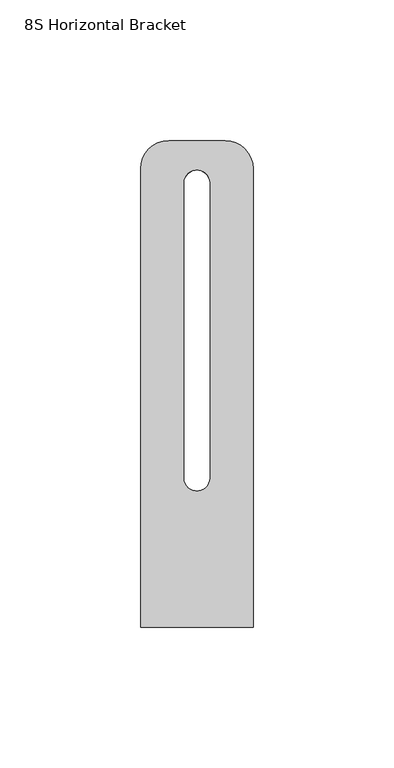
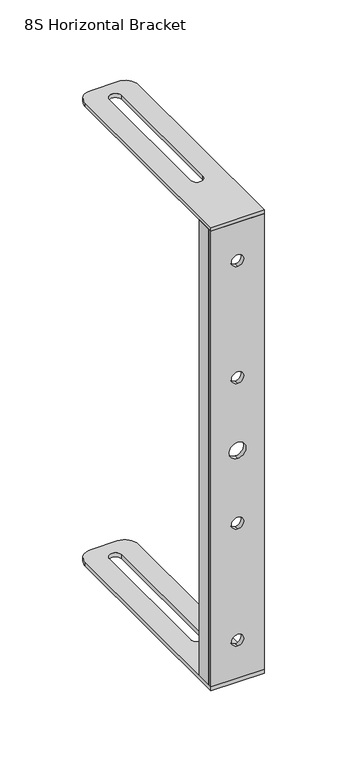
"""IFC4 building model written with IfcOpenShell, lengths in millimetres: proxy geometry, d&b xS-Series 8S Horizontal Bracket : 8S Horizontal Bracket."""

import ifcopenshell
import ifcopenshell.guid

model = None  # the IFC model being written
_history = None  # IfcOwnerHistory: only IFC2X3 demands one
_inside = {}  # id of a spatial element -> (the spatial element, [elements in it])
_under = {}  # id of a project, library or spatial element -> (it, [spatial elements below it])
_declared = {}  # id of a project -> (the project, [libraries it declares])
_typed = {}  # id of a type object -> (the type object, [elements of that type])
_made_of = {}  # id of a material, layer set ... -> (it, [elements and type objects made of it])


def new_model(schema):
    """Start an empty IFC model of exactly this schema.

    Asked for "IFC4X3", IfcOpenShell would pick the latest addendum, in which some entities
    have other attributes; the version numbers below select the first issue.
    IFC2X3 requires an IfcOwnerHistory on every rooted entity: one is made here for all.
    """
    global model, _history
    if schema == "IFC4X3":
        model = ifcopenshell.file(schema_version=(4, 3, 0, 0))
    else:
        model = ifcopenshell.file(schema=schema)
    _inside.clear()
    _under.clear()
    _declared.clear()
    _typed.clear()
    _made_of.clear()
    _history = None
    if model.schema == "IFC2X3":
        org = make("IfcOrganization", Name="unknown")
        user = make(
            "IfcPersonAndOrganization",
            ThePerson=make("IfcPerson", FamilyName="unknown"),
            TheOrganization=org,
        )
        app = make(
            "IfcApplication",
            ApplicationDeveloper=org,
            Version="unknown",
            ApplicationFullName="unknown",
            ApplicationIdentifier="unknown",
        )
        _history = make(
            "IfcOwnerHistory",
            OwningUser=user,
            OwningApplication=app,
            ChangeAction="ADDED",
            CreationDate=0,
        )
    return model


def make(cls, **values):
    """One entity of the class cls with the attributes given. An attribute that is None is left unset."""
    return model.create_entity(
        cls, **{name: value for name, value in values.items() if value is not None}
    )


def rooted(cls, **values):
    """An entity with a GlobalId (a new one), such as an element, a storey or a relation."""
    return make(cls, GlobalId=ifcopenshell.guid.new(), OwnerHistory=_history, **values)


def si_unit(unit_type, name, prefix=None):
    """IfcSIUnit, for example si_unit("LENGTHUNIT", "METRE", prefix="MILLI")."""
    return make("IfcSIUnit", UnitType=unit_type, Prefix=prefix, Name=name)


def assignment(units):
    """IfcUnitAssignment: the units of a project."""
    return None if units is None else make("IfcUnitAssignment", Units=units)


def point(xyz):
    """IfcCartesianPoint."""
    return None if xyz is None else make("IfcCartesianPoint", Coordinates=xyz)


def direction(xyz):
    """IfcDirection."""
    return None if xyz is None else make("IfcDirection", DirectionRatios=xyz)


def frame(location, z_axis=None, x_axis=None):
    """IfcAxis2Placement3D, a coordinate frame: its origin and axes. An axis left out is left unset."""
    return make(
        "IfcAxis2Placement3D",
        Location=point(location),
        Axis=direction(z_axis),
        RefDirection=direction(x_axis),
    )


def frame_2d(location, x_axis=None):
    """IfcAxis2Placement2D, a coordinate frame in the plane: its origin and x axis."""
    return make(
        "IfcAxis2Placement2D", Location=point(location), RefDirection=direction(x_axis)
    )


def origin():
    """The frame at (0, 0, 0) with its axes left unset."""
    return frame((0.0, 0.0, 0.0))


def origin_2d():
    """The frame at (0, 0) in the plane with its x axis left unset."""
    return frame_2d((0.0, 0.0))


def place(relative_to, where):
    """IfcLocalPlacement: puts the frame where relative to a parent placement (None: the world)."""
    return make(
        "IfcLocalPlacement", PlacementRelTo=relative_to, RelativePlacement=where
    )


def context(
    kind, dimensions, precision=None, world=None, true_north=None, identifier=None
):
    """IfcGeometricRepresentationContext, for example the 3D "Model" context."""
    return make(
        "IfcGeometricRepresentationContext",
        ContextIdentifier=identifier,
        ContextType=kind,
        CoordinateSpaceDimension=dimensions,
        Precision=precision,
        WorldCoordinateSystem=world,
        TrueNorth=true_north,
    )


def project(units=None, contexts=None):
    """IfcProject with its units and contexts."""
    return rooted(
        "IfcProject",
        Name="project",
        RepresentationContexts=contexts,
        UnitsInContext=assignment(units),
    )


def spatial(cls, under=None, at=None, **own):
    """A site, building, storey or space (cls), placed at a placement, below another one or the project."""
    s = rooted(cls, ObjectPlacement=at, **own)
    if under is not None:
        _under.setdefault(under.id(), (under, []))[1].append(s)
    return s


def polyline(points):
    """IfcPolyline through the points."""
    return make("IfcPolyline", Points=[point(p) for p in points])


def circle_curve(where, radius):
    """IfcCircle in the frame where."""
    return make("IfcCircle", Position=where, Radius=radius)


def trimmed(basis, trim1, trim2, sense, master):
    """IfcTrimmedCurve: the piece of a basis curve between two trims."""
    return make(
        "IfcTrimmedCurve",
        BasisCurve=basis,
        Trim1=trim1,
        Trim2=trim2,
        SenseAgreement=sense,
        MasterRepresentation=master,
    )


def segment(curve, same_sense, transition):
    """IfcCompositeCurveSegment."""
    return make(
        "IfcCompositeCurveSegment",
        Transition=transition,
        SameSense=same_sense,
        ParentCurve=curve,
    )


def composite_curve(segments, self_intersect=None):
    """IfcCompositeCurve: segments joined end to end."""
    return make("IfcCompositeCurve", Segments=segments, SelfIntersect=self_intersect)


def outline(outer, holes=None, kind="AREA"):
    """IfcArbitraryClosedProfileDef: a profile drawn as a closed curve; with holes, ...WithVoids."""
    if holes is None:
        return make("IfcArbitraryClosedProfileDef", ProfileType=kind, OuterCurve=outer)
    return make(
        "IfcArbitraryProfileDefWithVoids",
        ProfileType=kind,
        OuterCurve=outer,
        InnerCurves=holes,
    )


def extrude(swept, where, along, depth):
    """IfcExtrudedAreaSolid: the profile swept, set in the frame where, extruded along a direction by depth."""
    return make(
        "IfcExtrudedAreaSolid",
        SweptArea=swept,
        Position=where,
        ExtrudedDirection=direction(along),
        Depth=depth,
    )


def shape(context_of_items, identifier, shape_type, items):
    """IfcShapeRepresentation: the items that make up one representation, for example the "Body"."""
    return make(
        "IfcShapeRepresentation",
        ContextOfItems=context_of_items,
        RepresentationIdentifier=identifier,
        RepresentationType=shape_type,
        Items=items,
    )


def source(mapping_origin, context_of_items, identifier, shape_type, items):
    """IfcRepresentationMap: a shape defined once, which mapped items show again and again."""
    return make(
        "IfcRepresentationMap",
        MappingOrigin=mapping_origin,
        MappedRepresentation=shape(context_of_items, identifier, shape_type, items),
    )


def transform(
    local_origin,
    x_axis=None,
    y_axis=None,
    z_axis=None,
    scale=None,
    scale2=None,
    scale3=None,
    uniform=True,
):
    """IfcCartesianTransformationOperator3D, or its non-uniform kind. x_axis, y_axis, z_axis: its Axis1, 2, 3."""
    if uniform:
        return make(
            "IfcCartesianTransformationOperator3D",
            Axis1=direction(x_axis),
            Axis2=direction(y_axis),
            LocalOrigin=point(local_origin),
            Scale=scale,
            Axis3=direction(z_axis),
        )
    return make(
        "IfcCartesianTransformationOperator3DnonUniform",
        Axis1=direction(x_axis),
        Axis2=direction(y_axis),
        LocalOrigin=point(local_origin),
        Scale=scale,
        Axis3=direction(z_axis),
        Scale2=scale2,
        Scale3=scale3,
    )


def mapped(mapping_source, mapping_target):
    """IfcMappedItem: shows the shape of a source again, moved by a transform."""
    return make(
        "IfcMappedItem", MappingSource=mapping_source, MappingTarget=mapping_target
    )


def made_of(thing, what):
    """Note that an element or type object is made of a material, layer set ...; save() writes the relation."""
    if what is not None:
        _made_of.setdefault(what.id(), (what, []))[1].append(thing)
    return thing


def element(
    cls,
    number,
    at=None,
    inside=None,
    cuts=None,
    type_object=None,
    material=None,
    context=None,
    identifier="Body",
    shape_type=None,
    held_by="IfcProductDefinitionShape",
    body=None,
    shapes=None,
    **own,
):
    """One element of the class cls, such as IfcWall. Its Tag is "e" and its number.

    at: its placement. inside: the storey or other place that contains it. cuts: it is an
    opening in that element (IfcRelVoidsElement). A single representation is given by context,
    identifier, shape_type and body (its items); several are given by shapes. held_by: the class
    of the entity that holds the representations. save() writes the other relations.
    """
    e = rooted(cls, Tag="e%d" % number, ObjectPlacement=at, **own)
    if body is not None:
        shapes = [shape(context, identifier, shape_type, body)]
    if shapes is not None:
        e.Representation = make(held_by, Representations=shapes)
    if inside is not None:
        _inside.setdefault(inside.id(), (inside, []))[1].append(e)
    if cuts is not None:
        rooted(
            "IfcRelVoidsElement", RelatingBuildingElement=cuts, RelatedOpeningElement=e
        )
    if type_object is not None:
        _typed.setdefault(type_object.id(), (type_object, []))[1].append(e)
    return made_of(e, material)


def aggregate(whole, parts):
    """IfcRelAggregates: a whole, such as a stair, and the parts it consists of."""
    return rooted("IfcRelAggregates", RelatingObject=whole, RelatedObjects=parts)


def save(model, path):
    """Write the relations noted so far, then the file.

    IfcRelAggregates (storeys below a building ...), IfcRelContainedInSpatialStructure (elements
    in a storey), IfcRelDefinesByType, IfcRelAssociatesMaterial and IfcRelDeclares: one each for
    every whole, place, type object, material and project.
    """
    for whole, parts in _under.values():
        aggregate(whole, parts)
    for where, things in _inside.values():
        rooted(
            "IfcRelContainedInSpatialStructure",
            RelatedElements=things,
            RelatingStructure=where,
        )
    for kind, things in _typed.values():
        rooted("IfcRelDefinesByType", RelatedObjects=things, RelatingType=kind)
    for what, things in _made_of.values():
        rooted("IfcRelAssociatesMaterial", RelatedObjects=things, RelatingMaterial=what)
    for by, libraries in _declared.values():
        rooted("IfcRelDeclares", RelatingContext=by, RelatedDefinitions=libraries)
    model.write(path)


def proxy_8s_horizontal_bracket_507ac9af(model_context):
    return source(origin(), model_context, "Body", "SweptSolid", [
        extrude(outline(polyline([(-17.0, -155.0), (-20.0, -155.0), (-20.0, -143.0), (-17.0, -143.0), (-17.0, -155.0)])), frame((0.0, 0.0, -180.0), z_axis=(0.0, 0.0, 1.0), x_axis=(1.0, 0.0, 0.0)), (0.0, 0.0, 1.0), 359.99),
        extrude(outline(polyline([(17.0, -155.0), (17.0, -143.0), (20.0, -143.0), (20.0, -155.0), (17.0, -155.0)])), frame((0.0, 0.0, -180.0), z_axis=(0.0, 0.0, 1.0), x_axis=(1.0, 0.0, 0.0)), (0.0, 0.0, 1.0), 359.99),
        extrude(outline(polyline([(-180.0, 20.0), (179.99, 20.0), (179.99, -20.0), (-180.0, -20.0), (-180.0, 20.0)]), holes=[composite_curve([segment(trimmed(circle_curve(origin_2d(), 6.25), [point((-6.25, 0.0))], [point((6.25, 0.0))], True, "CARTESIAN"), True, "CONTINUOUS"), segment(trimmed(circle_curve(origin_2d(), 6.25), [point((6.25, 0.0))], [point((-6.25, 0.0))], True, "CARTESIAN"), True, "CONTINUOUS")], self_intersect=False), composite_curve([segment(trimmed(circle_curve(frame_2d((57.5, 0.0)), 4.5), [point((53.0, 0.0))], [point((62.0, 0.0))], True, "CARTESIAN"), True, "CONTINUOUS"), segment(trimmed(circle_curve(frame_2d((57.5, 0.0)), 4.5), [point((62.0, 0.0))], [point((53.0, 0.0))], True, "CARTESIAN"), True, "CONTINUOUS")], self_intersect=False), composite_curve([segment(trimmed(circle_curve(frame_2d((-57.5, 0.0)), 4.5), [point((-62.0, 0.0))], [point((-53.0, 0.0))], True, "CARTESIAN"), True, "CONTINUOUS"), segment(trimmed(circle_curve(frame_2d((-57.5, 0.0)), 4.5), [point((-53.0, 0.0))], [point((-62.0, 0.0))], True, "CARTESIAN"), True, "CONTINUOUS")], self_intersect=False), composite_curve([segment(trimmed(circle_curve(frame_2d((150.0, 0.0)), 4.5), [point((145.5, 0.0))], [point((154.5, 0.0))], True, "CARTESIAN"), True, "CONTINUOUS"), segment(trimmed(circle_curve(frame_2d((150.0, 0.0)), 4.5), [point((154.5, 0.0))], [point((145.5, 0.0))], True, "CARTESIAN"), True, "CONTINUOUS")], self_intersect=False), composite_curve([segment(trimmed(circle_curve(frame_2d((-150.0, 0.0)), 4.5), [point((-154.5, 0.0))], [point((-145.5, 0.0))], True, "CARTESIAN"), True, "CONTINUOUS"), segment(trimmed(circle_curve(frame_2d((-150.0, 0.0)), 4.5), [point((-145.5, 0.0))], [point((-154.5, 0.0))], True, "CARTESIAN"), True, "CONTINUOUS")], self_intersect=False)]), frame((0.0, -158.0, 0.0), z_axis=(0.0, 1.0, 0.0), x_axis=(0.0, 0.0, 1.0)), (0.0, 0.0, 1.0), 3.0),
        extrude(outline(composite_curve([segment(trimmed(circle_curve(frame_2d((-10.0, 5.0)), 10.0), [point((-20.0, 5.0))], [point((-10.0, 15.0))], False, "CARTESIAN"), True, "CONTINUOUS"), segment(polyline([(-10.0, 15.0), (10.0148842, 15.0)]), True, "CONTINUOUS"), segment(trimmed(circle_curve(frame_2d((10.0148842, 5.0148842)), 9.9851158), [point((10.0148842, 15.0))], [point((20.0, 5.0148842))], False, "CARTESIAN"), True, "CONTINUOUS"), segment(polyline([(20.0, 5.0148842), (20.0, -158.0), (-20.0, -158.0), (-20.0, 5.0)]), True, "CONTINUOUS")], self_intersect=False), holes=[composite_curve([segment(trimmed(circle_curve(frame_2d((0.0, -105.0)), 4.5), [point((-4.5, -105.0))], [point((4.5, -105.0))], True, "CARTESIAN"), True, "CONTINUOUS"), segment(polyline([(4.5, -105.0), (4.5, 0.0)]), True, "CONTINUOUS"), segment(trimmed(circle_curve(origin_2d(), 4.5), [point((4.5, 0.0))], [point((-4.5, 0.0))], True, "CARTESIAN"), True, "CONTINUOUS"), segment(polyline([(-4.5, 0.0), (-4.5, -105.0)]), True, "CONTINUOUS")], self_intersect=False)]), frame((0.0, 0.0, -183.0), z_axis=(0.0, 0.0, 1.0), x_axis=(1.0, 0.0, 0.0)), (0.0, 0.0, 1.0), 3.0),
        extrude(outline(composite_curve([segment(trimmed(circle_curve(frame_2d((-10.0, 5.0)), 10.0), [point((-20.0, 5.0))], [point((-10.0, 15.0))], False, "CARTESIAN"), True, "CONTINUOUS"), segment(polyline([(-10.0, 15.0), (10.0148842, 15.0)]), True, "CONTINUOUS"), segment(trimmed(circle_curve(frame_2d((10.0148842, 5.0148842)), 9.9851158), [point((10.0148842, 15.0))], [point((20.0, 5.0148842))], False, "CARTESIAN"), True, "CONTINUOUS"), segment(polyline([(20.0, 5.0148842), (20.0, -158.0), (-20.0, -158.0), (-20.0, 5.0)]), True, "CONTINUOUS")], self_intersect=False), holes=[composite_curve([segment(trimmed(circle_curve(frame_2d((0.0, -105.0)), 4.5), [point((-4.5, -105.0))], [point((4.5, -105.0))], True, "CARTESIAN"), True, "CONTINUOUS"), segment(polyline([(4.5, -105.0), (4.5, 0.0)]), True, "CONTINUOUS"), segment(trimmed(circle_curve(origin_2d(), 4.5), [point((4.5, 0.0))], [point((-4.5, 0.0))], True, "CARTESIAN"), True, "CONTINUOUS"), segment(polyline([(-4.5, 0.0), (-4.5, -105.0)]), True, "CONTINUOUS")], self_intersect=False)]), frame((0.0, 0.0, 179.99), z_axis=(0.0, 0.0, 1.0), x_axis=(1.0, 0.0, 0.0)), (0.0, 0.0, 1.0), 3.01),
    ])


if __name__ == "__main__":
    model = new_model("IFC4")
    model_context = context("Model", 3, world=origin())
    ifc_project = project(units=[si_unit("LENGTHUNIT", "METRE", prefix="MILLI")], contexts=[model_context])
    site = spatial("IfcSite", under=ifc_project)
    building = spatial("IfcBuilding", under=site)
    placement = place(None, origin())
    proxy_8s_horizontal_bracket_shape = proxy_8s_horizontal_bracket_507ac9af(model_context)
    element("IfcBuildingElementProxy", 1, Name="d&b xS-Series 8S Horizontal Bracket : 8S Horizontal Bracket", ObjectType="d&b xS-Series 8S Horizontal Bracket : 8S Horizontal Bracket", at=placement, inside=building, context=model_context, shape_type="MappedRepresentation", body=[
        mapped(proxy_8s_horizontal_bracket_shape, transform((0.0, 0.0, 0.0), x_axis=(1.0, 0.0, 0.0), y_axis=(0.0, 1.0, 0.0), z_axis=(0.0, 0.0, 1.0))),
    ])
    save(model, "model.ifc")
